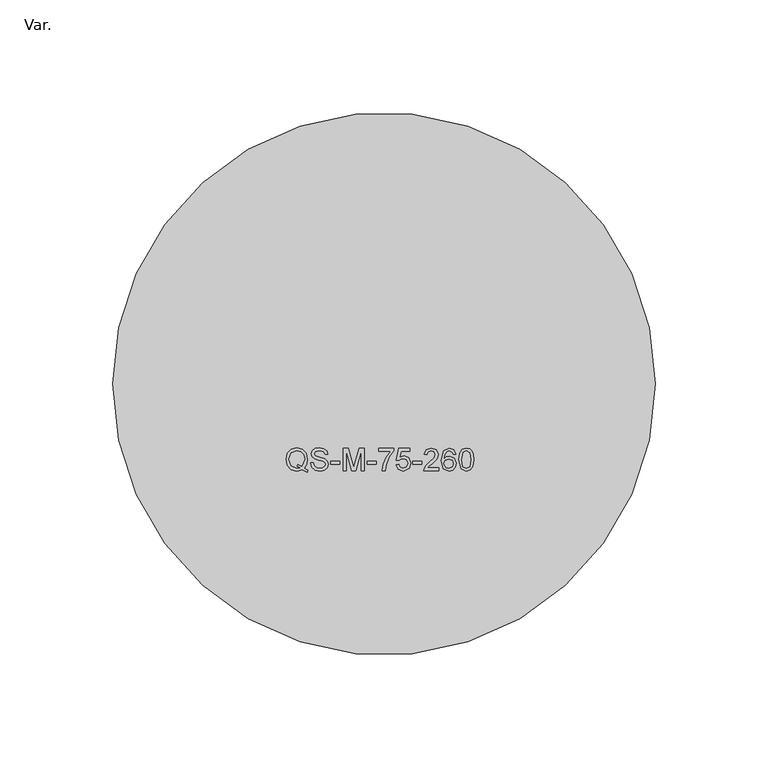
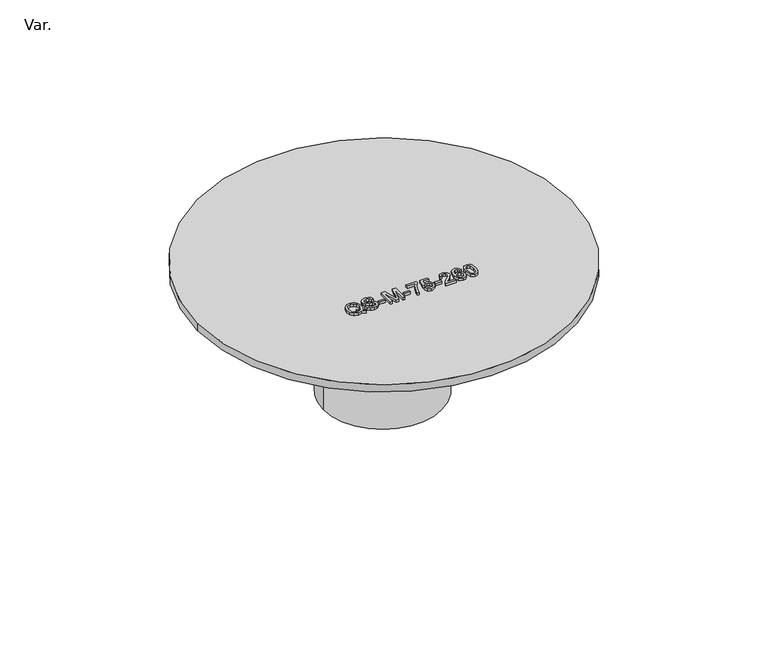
"""IFC4 building model written with IfcOpenShell, lengths in millimetres: sanitary terminal geometry, AmancoWavin_AquipamentosHidráulicos_QSBocaldeCaptação : Var.."""

from ifc_helpers import new_model, si_unit, point, frame, frame_2d, origin, place, context, project, spatial, polyline, circle_curve, ellipse_curve, trimmed, segment, composite_curve, outline, extrude, source, transform, mapped, element, save
from ifc_brep_helpers import plane_surface, cylinder_surface, revolved_surface, advanced_brep


def var_465fd9f6(model_context):
    return source(origin(), model_context, "Body", "SolidModel", [
        advanced_brep(
        [(36.1500013, 0.0, -61.0), (-36.1500013, 0.0, -61.0), (-38.1500013, 0.0, -63.2980538), (38.1500013, 0.0, -63.2980538), (0.0, 0.0, -61.0), (62.9019224, 0.0, 0.4999995), (-62.9019224, 0.0, 0.4999995), (0.0, 0.0, 0.4999995), (43.4999988, 0.0, -10.7017063), (-43.4999988, 0.0, -10.7017063), (35.9999985, 0.0, -23.692088), (-35.9999985, 0.0, -23.692088), (35.9999985, 0.0, -26.0000021), (-35.9999985, 0.0, -26.0000021), (38.1500013, 0.0, -26.0000021), (-38.1500013, 0.0, -26.0000021), (38.1500013, 0.0, -27.5000014), (-38.1500013, 0.0, -27.5000014), (39.9999991, 0.0, -27.5000014), (-39.9999991, 0.0, -27.5000014), (39.9999991, 0.0, -36.0), (-39.9999991, 0.0, -36.0), (38.1500013, 0.0, -36.0), (-38.1500013, 0.0, -36.0)],
        [
            (0, 1, circle_curve(frame((0.0, 0.0, -61.0), z_axis=(0.0, 0.0, 1.0), x_axis=(-1.0, 0.0, 0.0)), 36.1500013)),
            (1, 2),
            (2, 3, circle_curve(frame((0.0, 0.0, -63.2980538), z_axis=(0.0, 0.0, -1.0), x_axis=(-1.0, 0.0, 0.0)), 38.1500013)),
            (3, 0),
            (1, 0, circle_curve(frame((0.0, 0.0, -61.0), z_axis=(0.0, 0.0, 1.0), x_axis=(-1.0, 0.0, 0.0)), 36.1500013)),
            (3, 2, circle_curve(frame((0.0, 0.0, -63.2980538), z_axis=(0.0, 0.0, -1.0), x_axis=(-1.0, 0.0, 0.0)), 38.1500013)),
            (4, 1),
            (0, 4),
            (5, 6, circle_curve(frame((0.0, 0.0, 0.4999995), z_axis=(0.0, 0.0, 1.0), x_axis=(-1.0, 0.0, 0.0)), 62.9019224)),
            (6, 7),
            (7, 5),
            (6, 5, circle_curve(frame((0.0, 0.0, 0.4999995), z_axis=(0.0, 0.0, 1.0), x_axis=(-1.0, 0.0, 0.0)), 62.9019224)),
            (8, 9, circle_curve(frame((0.0, 0.0, -10.7017063), z_axis=(0.0, 0.0, 1.0), x_axis=(-1.0, 0.0, 0.0)), 43.4999988)),
            (9, 6),
            (5, 8),
            (9, 8, circle_curve(frame((0.0, 0.0, -10.7017063), z_axis=(0.0, 0.0, 1.0), x_axis=(-1.0, 0.0, 0.0)), 43.4999988)),
            (10, 11, circle_curve(frame((0.0, 0.0, -23.692088), z_axis=(0.0, 0.0, 1.0), x_axis=(-1.0, 0.0, 0.0)), 35.9999985)),
            (11, 9, circle_curve(frame((-50.9999992, 0.0, -23.692088), z_axis=(0.0, -1.0, 0.0), x_axis=(1.0, 0.0, 0.0)), 15.0000007)),
            (8, 10, circle_curve(frame((50.9999992, 0.0, -23.692088), z_axis=(0.0, -1.0, 0.0), x_axis=(-1.0, 0.0, 0.0)), 15.0000007)),
            (11, 10, circle_curve(frame((0.0, 0.0, -23.692088), z_axis=(0.0, 0.0, 1.0), x_axis=(-1.0, 0.0, 0.0)), 35.9999985)),
            (12, 13, circle_curve(frame((0.0, 0.0, -26.0000021), z_axis=(0.0, 0.0, 1.0), x_axis=(-1.0, 0.0, 0.0)), 35.9999985)),
            (13, 11),
            (10, 12),
            (13, 12, circle_curve(frame((0.0, 0.0, -26.0000021), z_axis=(0.0, 0.0, 1.0), x_axis=(-1.0, 0.0, 0.0)), 35.9999985)),
            (14, 15, circle_curve(frame((0.0, 0.0, -26.0000021), z_axis=(0.0, 0.0, 1.0), x_axis=(-1.0, 0.0, 0.0)), 38.1500013)),
            (15, 13),
            (12, 14),
            (15, 14, circle_curve(frame((0.0, 0.0, -26.0000021), z_axis=(0.0, 0.0, 1.0), x_axis=(-1.0, 0.0, 0.0)), 38.1500013)),
            (16, 17, circle_curve(frame((0.0, 0.0, -27.5000014), z_axis=(0.0, 0.0, 1.0), x_axis=(-1.0, 0.0, 0.0)), 38.1500013)),
            (17, 15),
            (14, 16),
            (17, 16, circle_curve(frame((0.0, 0.0, -27.5000014), z_axis=(0.0, 0.0, 1.0), x_axis=(-1.0, 0.0, 0.0)), 38.1500013)),
            (18, 19, circle_curve(frame((0.0, 0.0, -27.5000014), z_axis=(0.0, 0.0, 1.0), x_axis=(-1.0, 0.0, 0.0)), 39.9999991)),
            (19, 17),
            (16, 18),
            (19, 18, circle_curve(frame((0.0, 0.0, -27.5000014), z_axis=(0.0, 0.0, 1.0), x_axis=(-1.0, 0.0, 0.0)), 39.9999991)),
            (20, 21, circle_curve(frame((0.0, 0.0, -36.0), z_axis=(0.0, 0.0, 1.0), x_axis=(-1.0, 0.0, 0.0)), 39.9999991)),
            (21, 19),
            (18, 20),
            (21, 20, circle_curve(frame((0.0, 0.0, -36.0), z_axis=(0.0, 0.0, 1.0), x_axis=(-1.0, 0.0, 0.0)), 39.9999991)),
            (22, 23, circle_curve(frame((0.0, 0.0, -36.0), z_axis=(0.0, 0.0, 1.0), x_axis=(-1.0, 0.0, 0.0)), 38.1500013)),
            (23, 21),
            (20, 22),
            (23, 22, circle_curve(frame((0.0, 0.0, -36.0), z_axis=(0.0, 0.0, 1.0), x_axis=(-1.0, 0.0, 0.0)), 38.1500013)),
            (2, 23),
            (22, 3),
        ],
        [
            revolved_surface(polyline([(-38.1500013, 0.0, -63.2980538), (-36.1500013, 0.0, -61.0)]), (0.0, 0.0, -61.0000003), (0.0, 0.0, -1.0)),
            plane_surface(frame((0.0, 0.0, -61.0), z_axis=(0.0, 0.0, -1.0), x_axis=(-1.0, 0.0, 0.0))),
            plane_surface(frame((0.0, 0.0, 0.4999995), z_axis=(0.0, 0.0, 1.0), x_axis=(-1.0, 0.0, 0.0))),
            revolved_surface(polyline([(-62.9019224, 0.0, 0.4999995), (-43.4999988, 0.0, -10.7017063)]), (0.0, 0.0, -61.0000003), (0.0, 0.0, -1.0)),
            revolved_surface(trimmed(ellipse_curve(frame((-50.9999992, 0.0, -23.692088), z_axis=(0.0, 1.0, 0.0), x_axis=(1.0, 0.0, 0.0)), 15.0000007, 15.0000007), [point((-43.4999988, 0.0, -10.7017063))], [point((-35.9999985, 0.0, -23.692088))], True, "CARTESIAN"), (0.0, 0.0, -61.0000003), (0.0, 0.0, -1.0)),
            cylinder_surface(frame((0.0, 0.0, -61.0000003), z_axis=(0.0, 0.0, -1.0), x_axis=(-1.0, 0.0, 0.0)), 35.9999985),
            plane_surface(frame((0.0, 0.0, -26.0000021), z_axis=(0.0, 0.0, 1.0), x_axis=(-1.0, 0.0, 0.0))),
            cylinder_surface(frame((0.0, 0.0, -61.0000003), z_axis=(0.0, 0.0, -1.0), x_axis=(-1.0, 0.0, 0.0)), 38.1500013),
            plane_surface(frame((0.0, 0.0, -27.5000014), z_axis=(0.0, 0.0, 1.0), x_axis=(-1.0, 0.0, 0.0))),
            cylinder_surface(frame((0.0, 0.0, -61.0000003), z_axis=(0.0, 0.0, -1.0), x_axis=(-1.0, 0.0, 0.0)), 39.9999991),
            plane_surface(frame((0.0, 0.0, -36.0), z_axis=(0.0, 0.0, -1.0), x_axis=(-1.0, 0.0, 0.0))),
        ],
        [
            (0, [[1, 2, 3, 4]]),
            (0, [[5, -4, 6, -2]]),
            (1, [[7, -1, 8]]),
            (1, [[-8, -5, -7]]),
            (2, [[9, 10, 11]]),
            (2, [[12, -11, -10]]),
            (3, [[13, 14, -9, 15]]),
            (3, [[16, -15, -12, -14]]),
            (4, [[17, 18, -13, 19]]),
            (4, [[20, -19, -16, -18]]),
            (5, [[21, 22, -17, 23]]),
            (5, [[24, -23, -20, -22]]),
            (6, [[25, 26, -21, 27]]),
            (6, [[28, -27, -24, -26]]),
            (7, [[29, 30, -25, 31]]),
            (7, [[32, -31, -28, -30]]),
            (8, [[33, 34, -29, 35]]),
            (8, [[36, -35, -32, -34]]),
            (9, [[37, 38, -33, 39]]),
            (9, [[40, -39, -36, -38]]),
            (10, [[41, 42, -37, 43]]),
            (10, [[44, -43, -40, -42]]),
            (7, [[-3, 45, -41, 46]]),
            (7, [[-6, -46, -44, -45]]),
        ],
    ),
        extrude(outline(composite_curve([segment(trimmed(circle_curve(frame_2d((0.8526232, 0.0)), 120.0), [point((120.8526232, 0.0))], [point((-119.1473768, 0.0))], False, "CARTESIAN"), True, "CONTINUOUS"), segment(trimmed(circle_curve(frame_2d((0.8526232, 0.0)), 120.0), [point((-119.1473768, 0.0))], [point((120.8526232, 0.0))], False, "CARTESIAN"), True, "CONTINUOUS")], self_intersect=False)), frame((0.0, 0.0, 18.96875), z_axis=(0.0, 0.0, 1.0), x_axis=(1.0, 0.0, 0.0)), (0.0, 0.0, 1.0), 5.0),
        extrude(outline(polyline([(-34.4411637, -37.2095962), (-32.8837966, -38.2568336), (-33.222248, -39.1765386), (-35.2897448, -38.0017687), (-37.7300287, -38.5707596), (-40.1752177, -37.9147033), (-41.8662486, -36.0703883), (-42.4585386, -33.3934336), (-41.8674749, -30.6968586), (-40.1850279, -28.8464122), (-37.7422915, -28.2112026), (-35.2836135, -28.8611274), (-33.6146555, -30.680917), (-33.0407596, -33.3198572), (-33.3890212, -35.5148865), (-34.4411637, -37.2095962)]), holes=[polyline([(-37.3842197, -35.5394119), (-35.4761384, -36.4934526), (-34.2964634, -33.3836234), (-34.7133964, -31.322258), (-35.9335383, -29.953737), (-37.7349338, -29.4669065), (-40.216911, -30.4516039), (-41.2028348, -33.3909811), (-40.2279475, -36.3009277), (-37.7373864, -37.3150557), (-36.3860332, -37.0575383), (-37.7079558, -36.5008102), (-37.3842197, -35.5394119)])]), frame((0.0, 0.0, 23.96875), z_axis=(0.0, 0.0, 1.0), x_axis=(1.0, 0.0, 0.0)), (0.0, 0.0, 1.0), 2.0),
        extrude(outline(polyline([(-31.6280927, -34.9606109), (-30.3723888, -34.9606109), (-29.9677186, -36.2175411), (-28.9793423, -37.0121662), (-27.4734787, -37.3150557), (-26.1613663, -37.0857426), (-25.3140114, -36.4554381), (-25.0356474, -35.6129883), (-25.2441138, -34.8293997), (-26.0976, -34.2591826), (-27.9259736, -33.7797097), (-29.8941422, -33.1604417), (-30.9622263, -32.2260214), (-31.3141667, -30.9776752), (-30.8788397, -29.5564244), (-29.6071943, -28.5533328), (-27.7457114, -28.2112026), (-25.7591486, -28.5692744), (-24.4347734, -29.6214169), (-23.9369065, -31.1934993), (-25.1926103, -31.1934993), (-25.9038489, -29.9034598), (-27.6966605, -29.4669065), (-29.4943771, -29.8985547), (-30.0584629, -30.940887), (-29.6586978, -31.811541), (-27.6083688, -32.5129694), (-25.3863615, -33.1432739), (-24.1711247, -34.1610807), (-23.7799435, -35.5811052), (-24.2299858, -37.08329), (-25.5249304, -38.1795784), (-27.4244278, -38.5707596), (-29.6672817, -38.1489215), (-31.0860799, -36.8785024), (-31.6280927, -34.9606109)])), frame((0.0, 0.0, 23.96875), z_axis=(0.0, 0.0, 1.0), x_axis=(1.0, 0.0, 0.0)), (0.0, 0.0, 1.0), 2.0),
        extrude(outline(polyline([(-22.6812026, -35.4314999), (-22.6812026, -34.175796), (-18.757128, -34.175796), (-18.757128, -35.4314999), (-22.6812026, -35.4314999)])), frame((0.0, 0.0, 23.96875), z_axis=(0.0, 0.0, 1.0), x_axis=(1.0, 0.0, 0.0)), (0.0, 0.0, 1.0), 2.0),
        extrude(outline(polyline([(-17.1874981, -38.4137966), (-17.1874981, -28.3681656), (-15.0341622, -28.3681656), (-12.974023, -35.4486677), (-12.5570901, -36.9275533), (-12.108274, -35.3260404), (-10.0873756, -28.3681656), (-7.926682, -28.3681656), (-7.926682, -38.4137966), (-9.1823859, -38.4137966), (-9.1823859, -29.6238694), (-11.7060564, -38.4137966), (-13.4056712, -38.4137966), (-15.9317942, -29.6238694), (-15.9317942, -38.4137966), (-17.1874981, -38.4137966)])), frame((0.0, 0.0, 23.96875), z_axis=(0.0, 0.0, 1.0), x_axis=(1.0, 0.0, 0.0)), (0.0, 0.0, 1.0), 2.0),
        extrude(outline(polyline([(-6.5140152, -35.4314999), (-6.5140152, -34.175796), (-2.5899406, -34.175796), (-2.5899406, -35.4314999), (-6.5140152, -35.4314999)])), frame((0.0, 0.0, 23.96875), z_axis=(0.0, 0.0, 1.0), x_axis=(1.0, 0.0, 0.0)), (0.0, 0.0, 1.0), 2.0),
        extrude(outline(polyline([(-1.4911997, -29.7808324), (-1.4911997, -28.5251286), (5.1012457, -28.5251286), (5.1012457, -29.5404829), (3.2311789, -32.241963), (1.8001179, -35.6841122), (1.3341341, -38.4137966), (0.0784302, -38.4137966), (0.5775234, -35.5811052), (1.9472707, -32.3793056), (3.8455418, -29.7808324), (-1.4911997, -29.7808324)])), frame((0.0, 0.0, 23.96875), z_axis=(0.0, 0.0, 1.0), x_axis=(1.0, 0.0, 0.0)), (0.0, 0.0, 1.0), 2.0),
        extrude(outline(polyline([(6.1999866, -35.7454258), (7.4556905, -35.5884629), (8.0884475, -36.8821812), (9.4005599, -37.3150557), (10.9750949, -36.7129555), (11.5367281, -35.1151214), (11.0106568, -33.623973), (9.4201803, -33.0770551), (8.3177606, -33.2953318), (7.6126534, -33.86187), (6.3569496, -33.704907), (7.4556905, -28.5251286), (12.321543, -28.5251286), (12.321543, -29.7808324), (8.4710448, -29.7808324), (7.9314845, -32.547305), (9.7684419, -31.8213512), (11.9168728, -32.7214358), (12.7924319, -35.0366399), (12.0051645, -37.3665592), (9.3956548, -38.5707596), (7.179779, -37.7969811), (6.1999866, -35.7454258)])), frame((0.0, 0.0, 23.96875), z_axis=(0.0, 0.0, 1.0), x_axis=(1.0, 0.0, 0.0)), (0.0, 0.0, 1.0), 2.0),
        extrude(outline(polyline([(13.5772469, -35.4314999), (13.5772469, -34.175796), (17.5013215, -34.175796), (17.5013215, -35.4314999), (13.5772469, -35.4314999)])), frame((0.0, 0.0, 23.96875), z_axis=(0.0, 0.0, 1.0), x_axis=(1.0, 0.0, 0.0)), (0.0, 0.0, 1.0), 2.0),
        extrude(outline(polyline([(25.0355447, -37.1580927), (25.0355447, -38.4137966), (18.4430994, -38.4137966), (18.5779894, -37.5480476), (19.3419577, -36.2150885), (20.9152664, -34.7595021), (23.0820913, -32.6674798), (23.6228779, -31.2450028), (23.1115219, -30.0935321), (21.7761103, -29.6238694), (20.38429, -30.0824957), (19.8557662, -31.3504623), (18.6000624, -31.1934993), (19.5626869, -29.0916668), (21.8030883, -28.3681656), (24.0508473, -29.1726009), (24.8785818, -31.1689738), (24.6554, -32.3596852), (23.9135047, -33.5908636), (22.1145617, -35.3113251), (20.6700117, -36.5192043), (20.1034735, -37.1580927), (25.0355447, -37.1580927)])), frame((0.0, 0.0, 23.96875), z_axis=(0.0, 0.0, 1.0), x_axis=(1.0, 0.0, 0.0)), (0.0, 0.0, 1.0), 2.0),
        extrude(outline(polyline([(32.726731, -31.0365363), (31.4710271, -31.1934993), (30.9952331, -30.1462619), (29.7370766, -29.6238694), (28.6040001, -29.9279852), (27.746835, -31.0696457), (27.3899895, -33.3075945), (28.4973143, -32.3057292), (29.8695142, -31.9783142), (32.0032297, -32.8734937), (32.883694, -35.1862452), (32.4692136, -36.9189694), (31.3287794, -38.1452427), (29.6831206, -38.5707596), (27.1238882, -37.4425881), (26.1342856, -33.7245274), (27.2330265, -29.5135048), (29.8155581, -28.3681656), (31.7996684, -29.0769515), (32.726731, -31.0365363)]), holes=[polyline([(27.3899895, -35.1666248), (27.6806163, -36.2543293), (28.4531685, -37.0440493), (29.5850187, -37.3150557), (31.0651306, -36.7534225), (31.6279901, -35.2279385), (31.0724883, -33.767447), (29.5335153, -33.2340181), (28.0141626, -33.767447), (27.3899895, -35.1666248)])]), frame((0.0, 0.0, 23.96875), z_axis=(0.0, 0.0, 1.0), x_axis=(1.0, 0.0, 0.0)), (0.0, 0.0, 1.0), 2.0),
        extrude(outline(polyline([(33.9824349, -33.4719151), (34.3515431, -30.5815889), (35.4478315, -28.9150835), (37.2786575, -28.3681656), (38.7452804, -28.6919017), (39.7581822, -29.6250957), (40.3467934, -31.111339), (40.5748802, -33.4719151), (40.2094508, -36.3499786), (39.1168412, -38.0201628), (37.2786575, -38.5707596), (34.9830739, -37.6142664), (33.9824349, -33.4719151)]), holes=[polyline([(35.2381387, -33.4694626), (35.8267499, -36.5878756), (37.2786575, -37.3150557), (38.7305651, -36.5854231), (39.3191763, -33.4694626), (38.7501855, -30.3866114), (37.2639423, -29.6238694), (35.8463703, -30.2958672), (35.2381387, -33.4694626)])]), frame((0.0, 0.0, 23.96875), z_axis=(0.0, 0.0, 1.0), x_axis=(1.0, 0.0, 0.0)), (0.0, 0.0, 1.0), 2.0),
    ])


if __name__ == "__main__":
    model = new_model("IFC4")
    model_context = context("Model", 3, world=origin())
    ifc_project = project(units=[si_unit("LENGTHUNIT", "METRE", prefix="MILLI")], contexts=[model_context])
    site = spatial("IfcSite", under=ifc_project)
    building = spatial("IfcBuilding", under=site)
    placement = place(None, origin())
    var_shape = var_465fd9f6(model_context)
    element("IfcSanitaryTerminal", 1, ObjectType="AmancoWavin_AquipamentosHidráulicos_QSBocaldeCaptação : Var.", at=placement, inside=building, context=model_context, shape_type="MappedRepresentation", body=[
        mapped(var_shape, transform((0.0, 0.0, 0.0), x_axis=(1.0, 0.0, 0.0), y_axis=(0.0, 1.0, 0.0), z_axis=(0.0, 0.0, 1.0))),
    ])
    save(model, "model.ifc")
